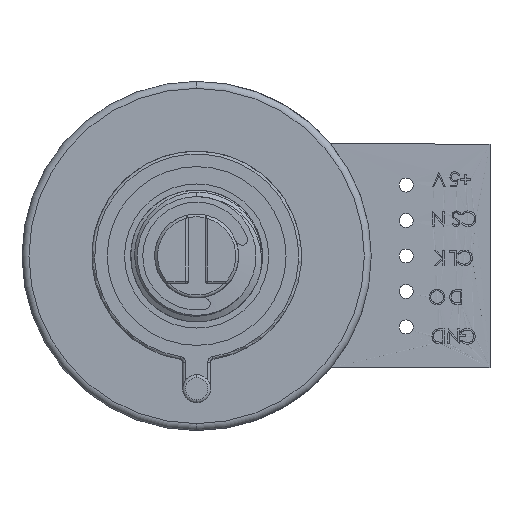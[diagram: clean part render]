
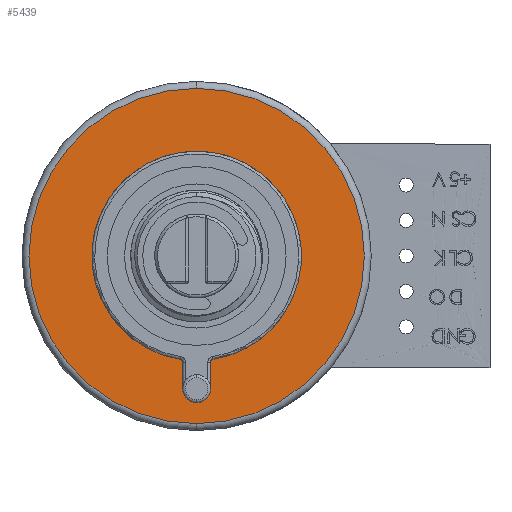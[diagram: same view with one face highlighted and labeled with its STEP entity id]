
A CAD part, left-side view. The second image highlights one B-rep face of the part: STEP entity #5439.
In plain terms, the highlighted planar face has unit normal (-1, 0, 0).
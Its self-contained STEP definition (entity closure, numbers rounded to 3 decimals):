
#999 = DIRECTION ( 'NONE',  ( 0., 0., 1. ) ) ;
#1000 = DIRECTION ( 'NONE',  ( -1., 0., 0. ) ) ;
#1001 = CARTESIAN_POINT ( 'NONE',  ( 5.678, -1.919, 2.892 ) ) ;
#1002 = AXIS2_PLACEMENT_3D ( 'NONE', #1001, #1000, #999 ) ;
#1003 = CIRCLE ( 'NONE', #1002, 12. ) ;
#1165 = DIRECTION ( 'NONE',  ( 0., 0., -1. ) ) ;
#1166 = DIRECTION ( 'NONE',  ( -1., 0., 0. ) ) ;
#1167 = CARTESIAN_POINT ( 'NONE',  ( 5.678, -1.919, -6.608 ) ) ;
#1168 = AXIS2_PLACEMENT_3D ( 'NONE', #1167, #1166, #1165 ) ;
#1169 = VECTOR ( 'NONE', #1248, 1000. ) ;
#1170 = CARTESIAN_POINT ( 'NONE',  ( 5.678, -0.919, -6.608 ) ) ;
#1171 = LINE ( 'NONE', #1170, #1169 ) ;
#1181 = DIRECTION ( 'NONE',  ( 0., 0., -1. ) ) ;
#1182 = DIRECTION ( 'NONE',  ( 1., 0., 0. ) ) ;
#1183 = CARTESIAN_POINT ( 'NONE',  ( 5.678, 5.581, 2.892 ) ) ;
#1184 = AXIS2_PLACEMENT_3D ( 'NONE', #1183, #1182, #1181 ) ;
#1185 = PLANE ( 'NONE',  #1184 ) ;
#1189 = CIRCLE ( 'NONE', #1168, 1. ) ;
#1197 = DIRECTION ( 'NONE',  ( 0., 0., 1. ) ) ;
#1198 = DIRECTION ( 'NONE',  ( -1., 0., 0. ) ) ;
#1199 = CARTESIAN_POINT ( 'NONE',  ( 5.678, -1.919, 2.892 ) ) ;
#1200 = AXIS2_PLACEMENT_3D ( 'NONE', #1199, #1198, #1197 ) ;
#1201 = CIRCLE ( 'NONE', #1200, 7.5 ) ;
#1227 = DIRECTION ( 'NONE',  ( 0., 0., 1. ) ) ;
#1228 = VECTOR ( 'NONE', #1227, 1000. ) ;
#1229 = CARTESIAN_POINT ( 'NONE',  ( 5.678, -2.919, -6.608 ) ) ;
#1230 = LINE ( 'NONE', #1229, #1228 ) ;
#1246 = FACE_BOUND ( 'NONE', #5393, .T. ) ;
#1247 = FACE_OUTER_BOUND ( 'NONE', #5440, .T. ) ;
#1248 = DIRECTION ( 'NONE',  ( 0., 0., -1. ) ) ;
#1249 = DIRECTION ( 'NONE',  ( 0., 0., -1. ) ) ;
#1250 = DIRECTION ( 'NONE',  ( -1., 0., 0. ) ) ;
#1251 = AXIS2_PLACEMENT_3D ( 'NONE', #1254, #1250, #1249 ) ;
#1252 = CIRCLE ( 'NONE', #1251, 0.2 ) ;
#1253 = CARTESIAN_POINT ( 'NONE',  ( 5.678, -2.919, -4.714 ) ) ;
#1254 = CARTESIAN_POINT ( 'NONE',  ( 5.678, -3.119, -4.714 ) ) ;
#1350 = CARTESIAN_POINT ( 'NONE',  ( 5.678, -0.75, -4.516 ) ) ;
#1351 = CARTESIAN_POINT ( 'NONE',  ( 5.678, -0.919, -4.714 ) ) ;
#1352 = DIRECTION ( 'NONE',  ( 0., 0., -1. ) ) ;
#1353 = DIRECTION ( 'NONE',  ( -1., 0., 0. ) ) ;
#1456 = CARTESIAN_POINT ( 'NONE',  ( 5.678, -0.719, -4.714 ) ) ;
#1457 = AXIS2_PLACEMENT_3D ( 'NONE', #1456, #1353, #1352 ) ;
#1479 = CIRCLE ( 'NONE', #1457, 0.2 ) ;
#3750 = CARTESIAN_POINT ( 'NONE',  ( 5.678, -2.919, -6.608 ) ) ;
#4414 = VERTEX_POINT ( 'NONE', #10193 ) ;
#4416 = EDGE_CURVE ( 'NONE', #4414, #4417, #10123, .T. ) ;
#4417 = VERTEX_POINT ( 'NONE', #10125 ) ;
#4423 = EDGE_CURVE ( 'NONE', #4424, #4425, #10203, .T. ) ;
#4424 = VERTEX_POINT ( 'NONE', #10188 ) ;
#4425 = VERTEX_POINT ( 'NONE', #10187 ) ;
#4493 = VERTEX_POINT ( 'NONE', #10475 ) ;
#4495 = EDGE_CURVE ( 'NONE', #4496, #4493, #10473, .T. ) ;
#4496 = VERTEX_POINT ( 'NONE', #10529 ) ;
#5321 = VERTEX_POINT ( 'NONE', #3750 ) ;
#5390 = ORIENTED_EDGE ( 'NONE', *, *, #4495, .T. ) ;
#5391 = ORIENTED_EDGE ( 'NONE', *, *, #5392, .T. ) ;
#5392 = EDGE_CURVE ( 'NONE', #4493, #4496, #1003, .T. ) ;
#5393 = EDGE_LOOP ( 'NONE', ( #5394, #5395, #5396, #5397, #5398, #5399, #5400, #5431 ) ) ;
#5394 = ORIENTED_EDGE ( 'NONE', *, *, #5437, .F. ) ;
#5395 = ORIENTED_EDGE ( 'NONE', *, *, #5459, .T. ) ;
#5396 = ORIENTED_EDGE ( 'NONE', *, *, #5448, .F. ) ;
#5397 = ORIENTED_EDGE ( 'NONE', *, *, #4423, .F. ) ;
#5398 = ORIENTED_EDGE ( 'NONE', *, *, #5419, .T. ) ;
#5399 = ORIENTED_EDGE ( 'NONE', *, *, #5449, .F. ) ;
#5400 = ORIENTED_EDGE ( 'NONE', *, *, #5425, .F. ) ;
#5419 = EDGE_CURVE ( 'NONE', #4424, #5420, #1252, .T. ) ;
#5420 = VERTEX_POINT ( 'NONE', #1253 ) ;
#5425 = EDGE_CURVE ( 'NONE', #4417, #5321, #1189, .T. ) ;
#5431 = ORIENTED_EDGE ( 'NONE', *, *, #4416, .F. ) ;
#5437 = EDGE_CURVE ( 'NONE', #5460, #4414, #1171, .T. ) ;
#5439 = ADVANCED_FACE ( 'NONE', ( #1247, #1246 ), #1185, .F. ) ;
#5440 = EDGE_LOOP ( 'NONE', ( #5390, #5391 ) ) ;
#5448 = EDGE_CURVE ( 'NONE', #4425, #5461, #1201, .T. ) ;
#5449 = EDGE_CURVE ( 'NONE', #5321, #5420, #1230, .T. ) ;
#5459 = EDGE_CURVE ( 'NONE', #5460, #5461, #1479, .T. ) ;
#5460 = VERTEX_POINT ( 'NONE', #1351 ) ;
#5461 = VERTEX_POINT ( 'NONE', #1350 ) ;
#10120 = DIRECTION ( 'NONE',  ( -1., 0., 0. ) ) ;
#10121 = CARTESIAN_POINT ( 'NONE',  ( 5.678, -1.919, -6.608 ) ) ;
#10122 = AXIS2_PLACEMENT_3D ( 'NONE', #10121, #10120, #10241 ) ;
#10123 = CIRCLE ( 'NONE', #10122, 1. ) ;
#10125 = CARTESIAN_POINT ( 'NONE',  ( 5.678, -1.919, -7.608 ) ) ;
#10187 = CARTESIAN_POINT ( 'NONE',  ( 5.678, -1.919, 10.392 ) ) ;
#10188 = CARTESIAN_POINT ( 'NONE',  ( 5.678, -3.088, -4.516 ) ) ;
#10189 = DIRECTION ( 'NONE',  ( 0., 0., 1. ) ) ;
#10193 = CARTESIAN_POINT ( 'NONE',  ( 5.678, -0.919, -6.608 ) ) ;
#10200 = DIRECTION ( 'NONE',  ( -1., 0., 0. ) ) ;
#10201 = CARTESIAN_POINT ( 'NONE',  ( 5.678, -1.919, 2.892 ) ) ;
#10202 = AXIS2_PLACEMENT_3D ( 'NONE', #10201, #10200, #10189 ) ;
#10203 = CIRCLE ( 'NONE', #10202, 7.5 ) ;
#10241 = DIRECTION ( 'NONE',  ( 0., 0., -1. ) ) ;
#10469 = DIRECTION ( 'NONE',  ( 0., 0., 1. ) ) ;
#10470 = DIRECTION ( 'NONE',  ( -1., 0., 0. ) ) ;
#10471 = CARTESIAN_POINT ( 'NONE',  ( 5.678, -1.919, 2.892 ) ) ;
#10472 = AXIS2_PLACEMENT_3D ( 'NONE', #10471, #10470, #10469 ) ;
#10473 = CIRCLE ( 'NONE', #10472, 12. ) ;
#10475 = CARTESIAN_POINT ( 'NONE',  ( 5.678, -1.919, -9.108 ) ) ;
#10529 = CARTESIAN_POINT ( 'NONE',  ( 5.678, -1.919, 14.892 ) ) ;
